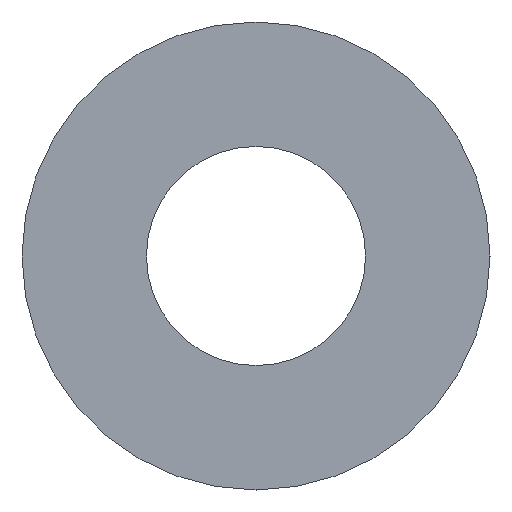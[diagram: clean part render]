
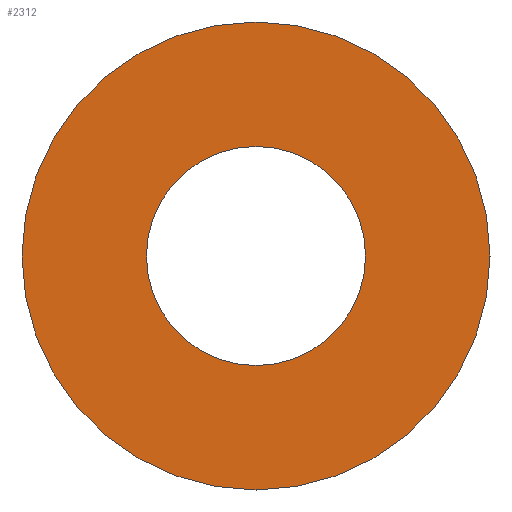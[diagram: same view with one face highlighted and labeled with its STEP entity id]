
A CAD part, front view. The second image highlights one B-rep face of the part: STEP entity #2312.
In plain terms, the highlighted planar face has unit normal (0, -1, 0).
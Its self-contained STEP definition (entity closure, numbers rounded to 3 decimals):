
#136 = AXIS2_PLACEMENT_3D ( 'NONE', #572, #1613, #162 ) ;
#162 = DIRECTION ( 'NONE',  ( 0., 0., -1. ) ) ;
#188 = VERTEX_POINT ( 'NONE', #2652 ) ;
#267 = CARTESIAN_POINT ( 'NONE',  ( 0., -15.5, 0. ) ) ;
#411 = CIRCLE ( 'NONE', #616, 23.5 ) ;
#419 = CIRCLE ( 'NONE', #573, 23.5 ) ;
#464 = ORIENTED_EDGE ( 'NONE', *, *, #2656, .F. ) ;
#514 = ORIENTED_EDGE ( 'NONE', *, *, #1477, .T. ) ;
#572 = CARTESIAN_POINT ( 'NONE',  ( 0., -15.5, 0. ) ) ;
#573 = AXIS2_PLACEMENT_3D ( 'NONE', #2594, #1167, #1356 ) ;
#616 = AXIS2_PLACEMENT_3D ( 'NONE', #267, #2304, #2533 ) ;
#828 = CARTESIAN_POINT ( 'NONE',  ( 0., -15.5, -11. ) ) ;
#914 = CARTESIAN_POINT ( 'NONE',  ( 0., -15.5, 0. ) ) ;
#954 = CIRCLE ( 'NONE', #1437, 11. ) ;
#982 = ORIENTED_EDGE ( 'NONE', *, *, #2417, .T. ) ;
#995 = EDGE_CURVE ( 'NONE', #2391, #1802, #1341, .T. ) ;
#1048 = CARTESIAN_POINT ( 'NONE',  ( 0., -15.5, 11. ) ) ;
#1167 = DIRECTION ( 'NONE',  ( 0., -1., 0. ) ) ;
#1168 = FACE_BOUND ( 'NONE', #1408, .T. ) ;
#1341 = CIRCLE ( 'NONE', #136, 11. ) ;
#1356 = DIRECTION ( 'NONE',  ( 0., 0., -1. ) ) ;
#1408 = EDGE_LOOP ( 'NONE', ( #1913, #464 ) ) ;
#1437 = AXIS2_PLACEMENT_3D ( 'NONE', #914, #2226, #1796 ) ;
#1477 = EDGE_CURVE ( 'NONE', #188, #2457, #419, .T. ) ;
#1608 = AXIS2_PLACEMENT_3D ( 'NONE', #1048, #1639, #1649 ) ;
#1613 = DIRECTION ( 'NONE',  ( 0., -1., 0. ) ) ;
#1639 = DIRECTION ( 'NONE',  ( 0., 1., 0. ) ) ;
#1649 = DIRECTION ( 'NONE',  ( 0., 0., 1. ) ) ;
#1796 = DIRECTION ( 'NONE',  ( 0., 0., -1. ) ) ;
#1802 = VERTEX_POINT ( 'NONE', #1845 ) ;
#1845 = CARTESIAN_POINT ( 'NONE',  ( 0., -15.5, 11. ) ) ;
#1913 = ORIENTED_EDGE ( 'NONE', *, *, #995, .F. ) ;
#1959 = EDGE_LOOP ( 'NONE', ( #982, #514 ) ) ;
#2226 = DIRECTION ( 'NONE',  ( 0., -1., 0. ) ) ;
#2295 = PLANE ( 'NONE',  #1608 ) ;
#2304 = DIRECTION ( 'NONE',  ( 0., -1., 0. ) ) ;
#2312 = ADVANCED_FACE ( 'NONE', ( #1168, #2350 ), #2295, .F. ) ;
#2323 = CARTESIAN_POINT ( 'NONE',  ( 0., -15.5, -23.5 ) ) ;
#2350 = FACE_OUTER_BOUND ( 'NONE', #1959, .T. ) ;
#2391 = VERTEX_POINT ( 'NONE', #828 ) ;
#2417 = EDGE_CURVE ( 'NONE', #2457, #188, #411, .T. ) ;
#2457 = VERTEX_POINT ( 'NONE', #2323 ) ;
#2533 = DIRECTION ( 'NONE',  ( 0., 0., -1. ) ) ;
#2594 = CARTESIAN_POINT ( 'NONE',  ( 0., -15.5, 0. ) ) ;
#2652 = CARTESIAN_POINT ( 'NONE',  ( 0., -15.5, 23.5 ) ) ;
#2656 = EDGE_CURVE ( 'NONE', #1802, #2391, #954, .T. ) ;
